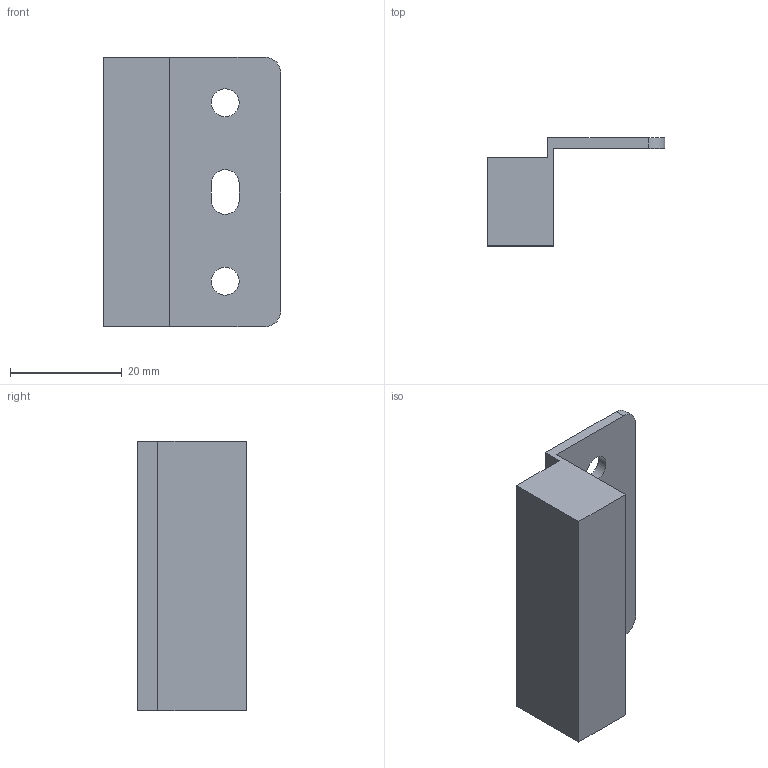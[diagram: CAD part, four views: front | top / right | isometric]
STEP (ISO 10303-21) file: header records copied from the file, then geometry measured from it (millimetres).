
FILE_DESCRIPTION (( 'STEP AP214' ), '1' );
FILE_NAME ('Variabler Relingshalter.STEP', '2010-09-23T11:29:48', ( 'grass' ), ( '' ), 'SwSTEP 2.0', 'SolidWorks 2010', '' );
FILE_SCHEMA (( 'AUTOMOTIVE_DESIGN' ));
Length unit declared in the file: millimetre
Products named in the file (1): Variabler Relingshalter
Bounding box: 31.9 x 19.4 x 48.4 mm (x, y, z)
Volume: 10965.8 mm3; surface area: 5365.6 mm2
Topology: 1 solids, 1 shells, 20 faces, 54 edges, 36 vertices
Faces by surface type: plane 12, cylinder 8
Entity records: 680 total; most frequent: DIRECTION 112, CARTESIAN_POINT 111, ORIENTED_EDGE 108, EDGE_CURVE 54, LINE 38, VECTOR 38, AXIS2_PLACEMENT_3D 37, VERTEX_POINT 36
